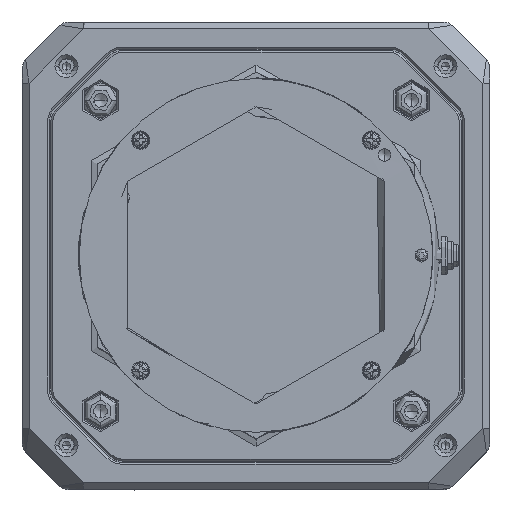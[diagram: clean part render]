
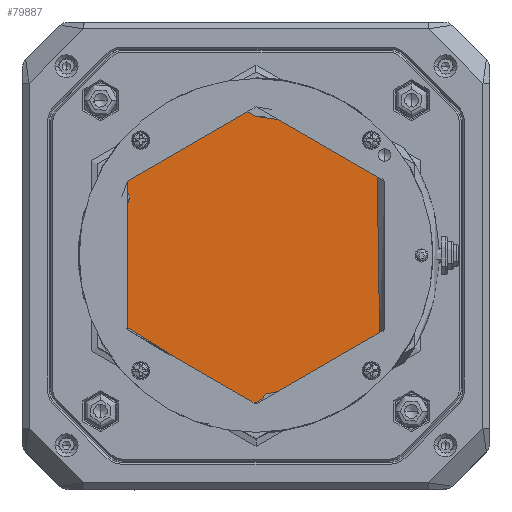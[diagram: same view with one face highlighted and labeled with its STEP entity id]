
A CAD part, top view. The second image highlights one B-rep face of the part: STEP entity #79887.
In plain terms, the highlighted planar face has unit normal (0, 0, 1).
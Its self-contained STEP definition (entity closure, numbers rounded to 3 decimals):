
#69790=CARTESIAN_POINT('',(38.049,38.049,
-25.));
#69791=DIRECTION('',(0.,0.,-1.));
#69792=DIRECTION('',(0.,-1.,0.));
#69793=AXIS2_PLACEMENT_3D('',#69790,#69791,#69792);
#69795=CARTESIAN_POINT('',(38.049,38.049,
-25.));
#69796=DIRECTION('',(0.,0.,-1.));
#69797=DIRECTION('',(0.,1.,0.));
#69798=AXIS2_PLACEMENT_3D('',#69795,#69796,#69797);
#75305=CARTESIAN_POINT('',(38.049,13.449,
-25.));
#75306=CARTESIAN_POINT('',(38.049,62.649,
-25.));
#75307=VERTEX_POINT('',#75305);
#75308=VERTEX_POINT('',#75306);
#79877=CARTESIAN_POINT('',(38.049,38.049,
-25.));
#79878=DIRECTION('',(0.,0.,1.));
#79879=DIRECTION('',(1.,0.,0.));
#79880=AXIS2_PLACEMENT_3D('',#79877,#79878,#79879);
#79881=PLANE('',#79880);
#79882=ORIENTED_EDGE('',*,*,#79867,.T.);
#79884=ORIENTED_EDGE('',*,*,#79883,.T.);
#79885=EDGE_LOOP('',(#79882,#79884));
#79886=FACE_OUTER_BOUND('',#79885,.F.);
#79887=ADVANCED_FACE('',(#79886),#79881,.T.);
#69794=CIRCLE('',#69793,24.6);
#69799=CIRCLE('',#69798,24.6);
#79867=EDGE_CURVE('',#75307,#75308,#69794,.T.);
#79883=EDGE_CURVE('',#75308,#75307,#69799,.T.);
